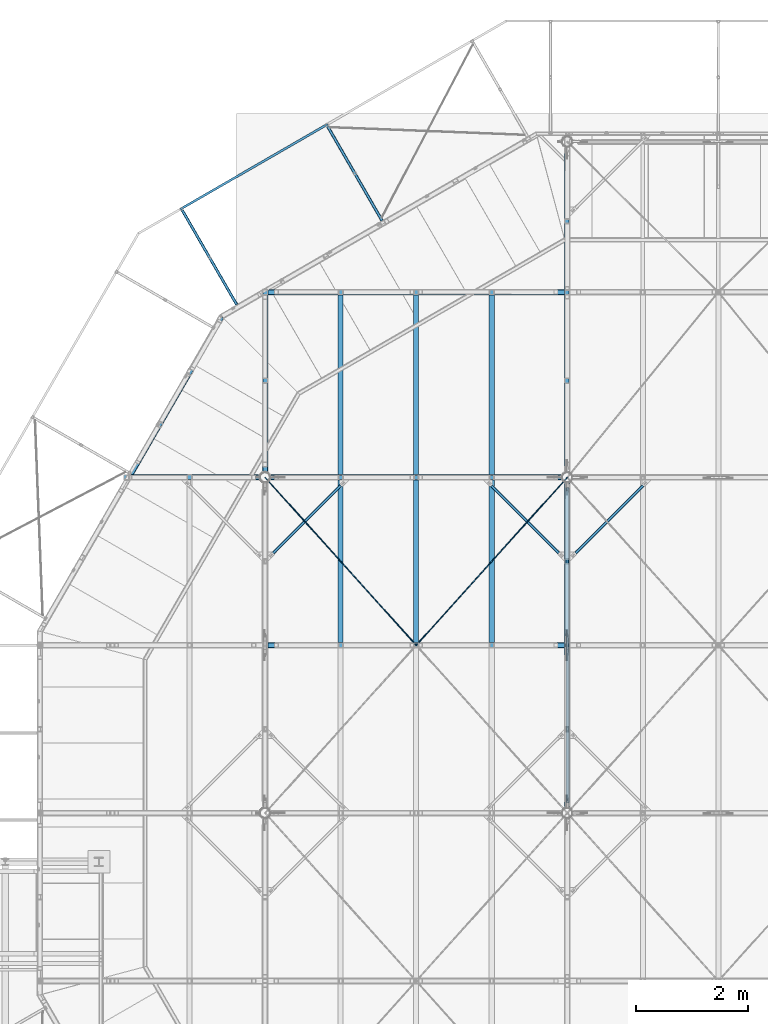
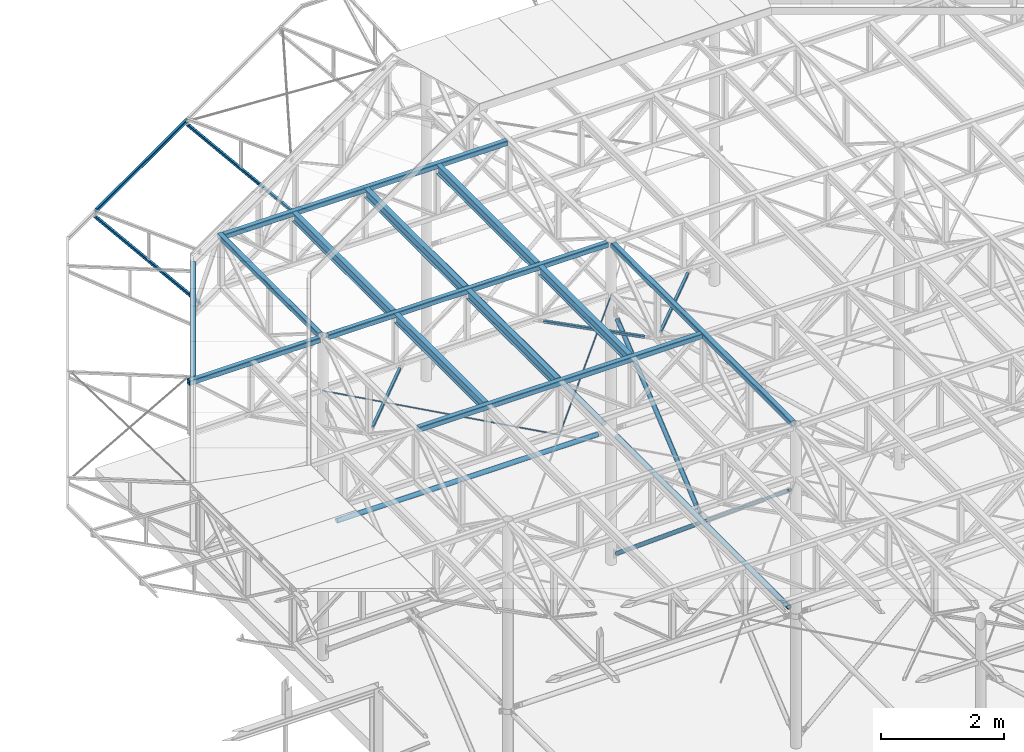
# One storey, part 16 of 132: 22 beams, 6 members, 28 elements without a shape of their own.
"""IFC2X3 building model written with IfcOpenShell, lengths in millimetres."""

from ifc_helpers import new_model, si_unit, frame, origin_with_axes, origin_2d_with_axis, place, context, subcontext, project, spatial, rectangle, hollow_rectangle, circle, hollow_circle, i_section, u_section, extrude, boolean, clip, halfspace, material, type_object, element, aggregate, save


model = new_model("IFC2X3")

# Units and contexts
model_context = context("Model", 3, precision=1e-05, world=origin_with_axes())
body_context = subcontext(model_context, "Body", "Model", "MODEL_VIEW")
ifc_project = project(units=[si_unit("LENGTHUNIT", "METRE", prefix="MILLI"), si_unit("AREAUNIT", "SQUARE_METRE"), si_unit("VOLUMEUNIT", "CUBIC_METRE"), si_unit("MASSUNIT", "GRAM", prefix="KILO"), si_unit("TIMEUNIT", "SECOND"), si_unit("PLANEANGLEUNIT", "RADIAN"), si_unit("SOLIDANGLEUNIT", "STERADIAN"), si_unit("THERMODYNAMICTEMPERATUREUNIT", "DEGREE_CELSIUS"), si_unit("LUMINOUSINTENSITYUNIT", "LUMEN")], contexts=[model_context])

# Site, building, storey
site_placement = place(None, origin_with_axes())
site = spatial("IfcSite", under=ifc_project, at=site_placement, Name="Budowa", CompositionType="ELEMENT")
building_placement = place(site_placement, origin_with_axes())
building = spatial("IfcBuilding", under=site, at=building_placement, Name="Undefined", CompositionType="ELEMENT")
storey_placement = place(building_placement, origin_with_axes())
storey = spatial("IfcBuildingStorey", under=building, at=storey_placement, Name="Undefined", CompositionType="ELEMENT", Elevation=0.0)

# Assembly, member
assembly_1_placement = place(storey_placement, origin_with_axes())
assembly_1 = element("IfcElementAssembly", 1, at=assembly_1_placement, inside=storey, Name="Steel Assembly", AssemblyPlace="NOTDEFINED", PredefinedType="RIGID_FRAME")
ifc_material_1 = material(Name="STEEL/S235JR")
member_type_1 = type_object("IfcMemberType", Name="CHS76.1*3", PredefinedType="NOTDEFINED")
member_1_placement = place(assembly_1_placement, frame((9416.99999736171, 17860.1013797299, 7739.00004577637), z_axis=(1.0, 0.0, 0.0), x_axis=(0.0, -0.76906919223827, 0.639165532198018)))
member_1 = element("IfcMember", 2, at=member_1_placement, type_object=member_type_1, material=ifc_material_1, Name="BEAM", ObjectType="CHS76.1*3", context=body_context, shape_type="CSG", body=[
    boolean("DIFFERENCE", boolean("DIFFERENCE", boolean("DIFFERENCE", boolean("DIFFERENCE", extrude(hollow_circle(Radius=38.05, WallThickness=3.0, at=origin_2d_with_axis()), frame((3481.05096829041, 0.0, 0.0), z_axis=(-1.0, 0.0, 0.0), x_axis=(0.0, -1.0, 0.0)), (0.0, 0.0, 1.0), 3395.69), extrude(rectangle(XDim=10.0, YDim=80.1, at=origin_2d_with_axis()), frame((3400.05097323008, 9.67559365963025e-14, 1.74737942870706e-06), z_axis=(1.0, 0.0, 0.0), x_axis=(0.0, 0.0, 1.0)), (0.0, 0.0, 1.0), 83.0)), extrude(rectangle(XDim=10.0, YDim=78.0, at=origin_2d_with_axis()), frame((166.363191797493, 5.83418868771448e-11, 2.32343882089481e-06), z_axis=(-1.0, 0.0, 0.0), x_axis=(0.0, 0.0, -1.0)), (0.0, 0.0, 1.0), 93.0)), halfspace(frame((3481.05096828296, 1.09139364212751e-11, 12.0000029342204), z_axis=(-1.0, 0.0, 0.0), x_axis=(0.0, -1.0, 0.0)), True)), halfspace(frame((85.3631917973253, 4.72937244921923e-11, 12.0000023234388), z_axis=(1.0, 0.0, 0.0), x_axis=(0.0, 0.0, -1.0)), True)),
])
aggregate(assembly_1, [member_1])

assembly_2_placement = place(storey_placement, origin_with_axes())
assembly_2 = element("IfcElementAssembly", 3, at=assembly_2_placement, inside=storey, Name="Steel Assembly", AssemblyPlace="NOTDEFINED", PredefinedType="RIGID_FRAME")
member_2_placement = place(assembly_2_placement, frame((9416.9999973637, 17860.1013797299, 12492.9997558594), z_axis=(1.0, 0.0, 0.0), x_axis=(0.0, -0.769069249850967, -0.639165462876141)))
member_2 = element("IfcMember", 4, at=member_2_placement, type_object=member_type_1, material=ifc_material_1, Name="BEAM", ObjectType="CHS76.1*3", context=body_context, shape_type="CSG", body=[
    boolean("DIFFERENCE", boolean("DIFFERENCE", boolean("DIFFERENCE", boolean("DIFFERENCE", extrude(hollow_circle(Radius=38.05, WallThickness=3.0, at=origin_2d_with_axis()), frame((3481.04986608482, -1.93237085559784e-13, 0.0), z_axis=(-1.0, 0.0, 0.0), x_axis=(0.0, -1.0, 0.0)), (0.0, 0.0, 1.0), 3395.69), extrude(rectangle(XDim=10.0, YDim=80.1, at=origin_2d_with_axis()), frame((3400.04985885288, -5.34461364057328e-13, 2.0142820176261e-06), z_axis=(1.0, 0.0, 0.0), x_axis=(0.0, 0.0, 1.0)), (0.0, 0.0, 1.0), 83.0)), extrude(rectangle(XDim=10.0, YDim=88.0, at=origin_2d_with_axis()), frame((166.363191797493, 5.83418868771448e-11, 2.32343882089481e-06), z_axis=(-1.0, 0.0, 0.0), x_axis=(0.0, 0.0, -1.0)), (0.0, 0.0, 1.0), 93.0)), halfspace(frame((3481.04986608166, -1.72803993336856e-11, 12.0000032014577), z_axis=(-1.0, 0.0, 0.0), x_axis=(0.0, -1.0, 0.0)), True)), halfspace(frame((85.3631917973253, 4.72937244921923e-11, 12.0000023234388), z_axis=(1.0, 0.0, 0.0), x_axis=(0.0, 0.0, -1.0)), True)),
])
aggregate(assembly_2, [member_2])

# Assembly, beam
assembly_3_placement = place(storey_placement, origin_with_axes())
assembly_3 = element("IfcElementAssembly", 5, at=assembly_3_placement, inside=storey, Name="Steel Assembly", AssemblyPlace="NOTDEFINED", PredefinedType="RIGID_FRAME")
beam_type_1 = type_object("IfcBeamType", Name="CHS88.9*3", PredefinedType="NOTDEFINED")
beam_1_placement = place(assembly_3_placement, frame((9417.00000620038, 18088.900000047, 10116.0003779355), z_axis=(-1.0, 0.0, 0.0), x_axis=(0.0, 1.0, 0.0)))
beam_1 = element("IfcBeam", 6, at=beam_1_placement, type_object=beam_type_1, material=ifc_material_1, Name="BEAM", ObjectType="CHS88.9*3", context=body_context, shape_type="CSG", body=[
    boolean("DIFFERENCE", boolean("DIFFERENCE", boolean("DIFFERENCE", boolean("DIFFERENCE", extrude(hollow_circle(Radius=44.45, WallThickness=3.0, at=origin_2d_with_axis()), frame((5703.19209466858, 0.0, 0.0), z_axis=(-1.0, 0.0, 0.0), x_axis=(0.0, -1.0, 0.0)), (0.0, 0.0, 1.0), 5584.18), extrude(rectangle(XDim=9.0, YDim=92.9, at=origin_2d_with_axis()), frame((5602.19209466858, 0.0, 3.70549059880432e-06), z_axis=(1.0, 0.0, 0.0), x_axis=(0.0, 0.0, -1.0)), (0.0, 0.0, 1.0), 103.0)), extrude(rectangle(XDim=9.0, YDim=92.9, at=origin_2d_with_axis()), frame((220.00790537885, 0.0, 3.42542261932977e-06), z_axis=(-1.0, 0.0, 0.0), x_axis=(0.0, 0.0, -1.0)), (0.0, 0.0, 1.0), 103.0)), halfspace(frame((5703.19209466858, 0.0, -11.9999962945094), z_axis=(-1.0, 0.0, 0.0), x_axis=(0.0, 1.0, 0.0)), True)), halfspace(frame((119.00790537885, 0.0, -11.9999965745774), z_axis=(1.0, 0.0, 0.0), x_axis=(0.0, -1.0, 0.0)), True)),
])
aggregate(assembly_3, [beam_1])

assembly_4_placement = place(storey_placement, origin_with_axes())
assembly_4 = element("IfcElementAssembly", 7, at=assembly_4_placement, inside=storey, Name="Steel Assembly", AssemblyPlace="NOTDEFINED", PredefinedType="RIGID_FRAME")
beam_2_placement = place(assembly_4_placement, frame((4113.90113815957, 17998.0000028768, 10116.0003779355), z_axis=(0.0, -1.0, 0.0), x_axis=(1.0, 0.0, 0.0)))
beam_2 = element("IfcBeam", 8, at=beam_2_placement, type_object=beam_type_1, material=ifc_material_1, Name="BEAM", ObjectType="CHS88.9*3", context=body_context, shape_type="CSG", body=[
    boolean("DIFFERENCE", boolean("DIFFERENCE", boolean("DIFFERENCE", boolean("DIFFERENCE", boolean("DIFFERENCE", extrude(hollow_circle(Radius=44.45, WallThickness=3.0, at=origin_2d_with_axis()), frame((5057.96216744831, 0.0, 0.0), z_axis=(-1.0, 0.0, 0.0), x_axis=(0.0, -1.0, 0.0)), (0.0, 0.0, 1.0), 4893.73), extrude(rectangle(XDim=9.0, YDim=92.9, at=origin_2d_with_axis()), frame((265.235555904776, 1.81898940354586e-12, 3.42543353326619e-06), z_axis=(-1.0, 0.0, 0.0), x_axis=(0.0, 0.0, 1.0)), (0.0, 0.0, 1.0), 103.0)), extrude(rectangle(XDim=9.0, YDim=92.9, at=origin_2d_with_axis()), frame((4956.96216744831, 1.81898940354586e-12, 3.42543353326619e-06), z_axis=(1.0, 0.0, 0.0), x_axis=(0.0, 0.0, -1.0)), (0.0, 0.0, 1.0), 103.0)), extrude(rectangle(XDim=8.0, YDim=80.1, at=origin_2d_with_axis()), frame((5006.96216666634, 0.0, 2.93223274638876e-06), z_axis=(1.0, 0.0, 0.0), x_axis=(0.0, 0.0, 1.0)), (0.0, 0.0, 1.0), 82.0)), halfspace(frame((5057.96216744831, 1.81898940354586e-12, -11.9999965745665), z_axis=(-1.0, 0.0, 0.0), x_axis=(0.0, 1.0, 0.0)), True)), halfspace(frame((164.235555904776, 1.81898940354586e-12, -11.9999965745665), z_axis=(1.0, 0.0, 0.0), x_axis=(0.0, 0.0, 1.0)), True)),
])
aggregate(assembly_4, [beam_2])

assembly_5_placement = place(storey_placement, origin_with_axes())
assembly_5 = element("IfcElementAssembly", 9, at=assembly_5_placement, inside=storey, Name="Steel Assembly", AssemblyPlace="NOTDEFINED", PredefinedType="RIGID_FRAME")
beam_3_placement = place(assembly_5_placement, frame((9417.00000620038, 12088.900000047, 10116.0003779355), z_axis=(-1.0, 0.0, 0.0), x_axis=(0.0, 1.0, 0.0)))
beam_3 = element("IfcBeam", 10, at=beam_3_placement, type_object=beam_type_1, material=ifc_material_1, Name="BEAM", ObjectType="CHS88.9*3", context=body_context, shape_type="CSG", body=[
    boolean("DIFFERENCE", boolean("DIFFERENCE", boolean("DIFFERENCE", boolean("DIFFERENCE", extrude(hollow_circle(Radius=44.45, WallThickness=3.0, at=origin_2d_with_axis()), frame((5703.19209466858, 0.0, 0.0), z_axis=(-1.0, 0.0, 0.0), x_axis=(0.0, -1.0, 0.0)), (0.0, 0.0, 1.0), 5584.18), extrude(rectangle(XDim=9.0, YDim=92.9, at=origin_2d_with_axis()), frame((5602.19209466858, 0.0, 3.70549059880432e-06), z_axis=(1.0, 0.0, 0.0), x_axis=(0.0, 0.0, -1.0)), (0.0, 0.0, 1.0), 103.0)), extrude(rectangle(XDim=9.0, YDim=92.9, at=origin_2d_with_axis()), frame((220.00790537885, 0.0, 3.42542261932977e-06), z_axis=(-1.0, 0.0, 0.0), x_axis=(0.0, 0.0, -1.0)), (0.0, 0.0, 1.0), 103.0)), halfspace(frame((5703.19209466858, 0.0, -11.9999962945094), z_axis=(-1.0, 0.0, 0.0), x_axis=(0.0, 1.0, 0.0)), True)), halfspace(frame((119.00790537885, 0.0, -11.9999965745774), z_axis=(1.0, 0.0, 0.0), x_axis=(0.0, -1.0, 0.0)), True)),
])
aggregate(assembly_5, [beam_3])

# Assembly, member
assembly_6_placement = place(storey_placement, origin_with_axes())
assembly_6 = element("IfcElementAssembly", 11, at=assembly_6_placement, inside=storey, Name="Steel Assembly", AssemblyPlace="NOTDEFINED", PredefinedType="RIGID_FRAME")
ifc_material_2 = material(Name="STEEL/S235")
member_type_2 = type_object("IfcMemberType", Name="CHS60.3*6.3", PredefinedType="NOTDEFINED")
member_3_placement = place(assembly_6_placement, frame((9433.00000235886, 17860.1013797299, 7739.00004577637), z_axis=(-1.0, 0.0, 0.0), x_axis=(0.0, -0.76906919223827, 0.639165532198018)))
member_3 = element("IfcMember", 12, at=member_3_placement, type_object=member_type_2, material=ifc_material_2, Name="BEAM", ObjectType="CHS60.3*6.3", context=body_context, shape_type="CSG", body=[
    boolean("DIFFERENCE", boolean("DIFFERENCE", boolean("DIFFERENCE", boolean("DIFFERENCE", extrude(hollow_circle(Radius=30.15, WallThickness=6.3, at=origin_2d_with_axis()), frame((7362.46270940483, -4.08698780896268e-13, 0.0), z_axis=(-1.0, 0.0, 0.0), x_axis=(0.0, -1.0, 0.0)), (0.0, 0.0, 1.0), 7287.1), extrude(rectangle(XDim=8.0, YDim=64.3, at=origin_2d_with_axis()), frame((7312.46270938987, -3.70725672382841e-12, 2.41760744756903e-06), z_axis=(1.0, 0.0, 0.0), x_axis=(0.0, 0.0, 1.0)), (0.0, 0.0, 1.0), 52.0)), extrude(rectangle(XDim=8.0, YDim=64.3, at=origin_2d_with_axis()), frame((125.363191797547, -3.76239039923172e-11, 2.32343927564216e-06), z_axis=(-1.0, 0.0, 0.0), x_axis=(0.0, 0.0, 1.0)), (0.0, 0.0, 1.0), 52.0)), halfspace(frame((7362.46270938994, -7.27595761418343e-12, 12.0000024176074), z_axis=(-1.0, 0.0, 0.0), x_axis=(0.0, -1.0, 0.0)), True)), halfspace(frame((75.3631917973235, -5.0931703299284e-11, 12.0000023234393), z_axis=(1.0, 0.0, 0.0), x_axis=(0.0, 1.0, 0.0)), True)),
])
aggregate(assembly_6, [member_3])

assembly_7_placement = place(storey_placement, origin_with_axes())
assembly_7 = element("IfcElementAssembly", 13, at=assembly_7_placement, inside=storey, Name="Steel Assembly", AssemblyPlace="NOTDEFINED", PredefinedType="RIGID_FRAME")
member_4_placement = place(assembly_7_placement, frame((9433.00000235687, 17860.1013797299, 12492.9997558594), z_axis=(-1.0, 0.0, 0.0), x_axis=(0.0, -0.769069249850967, -0.639165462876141)))
member_4 = element("IfcMember", 14, at=member_4_placement, type_object=member_type_2, material=ifc_material_2, Name="BEAM", ObjectType="CHS60.3*6.3", context=body_context, shape_type="CSG", body=[
    boolean("DIFFERENCE", boolean("DIFFERENCE", boolean("DIFFERENCE", boolean("DIFFERENCE", extrude(hollow_circle(Radius=30.15, WallThickness=6.3, at=origin_2d_with_axis()), frame((3572.46182118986, 1.98311468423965e-13, 0.0), z_axis=(-1.0, 0.0, 0.0), x_axis=(0.0, -1.0, 0.0)), (0.0, 0.0, 1.0), 3497.1), extrude(rectangle(XDim=8.0, YDim=64.3, at=origin_2d_with_axis()), frame((3522.46182118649, 2.42827979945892e-12, 2.51177698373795e-06), z_axis=(1.0, 0.0, 0.0), x_axis=(0.0, 0.0, 1.0)), (0.0, 0.0, 1.0), 52.0)), extrude(rectangle(XDim=8.0, YDim=64.3, at=origin_2d_with_axis()), frame((125.363191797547, -3.76239039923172e-11, 2.32343927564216e-06), z_axis=(-1.0, 0.0, 0.0), x_axis=(0.0, 0.0, 1.0)), (0.0, 0.0, 1.0), 52.0)), halfspace(frame((3572.46182118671, 8.18545231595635e-12, 12.000002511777), z_axis=(-1.0, 0.0, 0.0), x_axis=(0.0, -1.0, 0.0)), True)), halfspace(frame((75.3631917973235, -5.0931703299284e-11, 12.0000023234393), z_axis=(1.0, 0.0, 0.0), x_axis=(0.0, 1.0, 0.0)), True)),
])
aggregate(assembly_7, [member_4])

# Assembly, beam
assembly_8_placement = place(storey_placement, origin_with_axes())
assembly_8 = element("IfcElementAssembly", 15, at=assembly_8_placement, inside=storey, Name="Steel Assembly", AssemblyPlace="NOTDEFINED", PredefinedType="RIGID_FRAME")
beam_type_2 = type_object("IfcBeamType", Name="IPE180", PredefinedType="NOTDEFINED")
beam_4_placement = place(assembly_8_placement, frame((5374.99999993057, 18050.000000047, 13790.0), z_axis=(0.0, 0.0, 1.0), x_axis=(0.0, 1.0, 0.0)))
beam_4 = element("IfcBeam", 16, at=beam_4_placement, type_object=beam_type_2, material=ifc_material_2, Name="BEAM", ObjectType="IPE180", context=body_context, shape_type="SweptSolid", body=[
    extrude(i_section(OverallWidth=91.0, OverallDepth=180.0, WebThickness=5.300000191, FlangeThickness=8.0, FilletRadius=9.0, at=origin_2d_with_axis()), frame((3209.99999999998, 0.0, 0.0), z_axis=(-1.0, 0.0, 0.0), x_axis=(0.0, -1.0, 0.0)), (0.0, 0.0, 1.0), 3210.0),
])
aggregate(assembly_8, [beam_4])

assembly_9_placement = place(storey_placement, origin_with_axes())
assembly_9 = element("IfcElementAssembly", 17, at=assembly_9_placement, inside=storey, Name="Steel Assembly", AssemblyPlace="NOTDEFINED", PredefinedType="RIGID_FRAME")
beam_5_placement = place(assembly_9_placement, frame((5374.99999993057, 15050.0000000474, 13790.0), z_axis=(0.0, 0.0, 1.0), x_axis=(0.0, 1.0, 0.0)))
beam_5 = element("IfcBeam", 18, at=beam_5_placement, type_object=beam_type_2, material=ifc_material_2, Name="BEAM", ObjectType="IPE180", context=body_context, shape_type="SweptSolid", body=[
    extrude(i_section(OverallWidth=91.0, OverallDepth=180.0, WebThickness=5.300000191, FlangeThickness=8.0, FilletRadius=9.0, at=origin_2d_with_axis()), frame((2900.00000000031, 0.0, 0.0), z_axis=(-1.0, 0.0, 0.0), x_axis=(0.0, -1.0, 0.0)), (0.0, 0.0, 1.0), 2900.0),
])
aggregate(assembly_9, [beam_5])

assembly_10_placement = place(storey_placement, origin_with_axes())
assembly_10 = element("IfcElementAssembly", 19, at=assembly_10_placement, inside=storey, Name="Steel Assembly", AssemblyPlace="NOTDEFINED", PredefinedType="RIGID_FRAME")
beam_6_placement = place(assembly_10_placement, frame((8074.99999993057, 18050.000000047, 13790.0), z_axis=(0.0, 0.0, 1.0), x_axis=(0.0, 1.0, 0.0)))
beam_6 = element("IfcBeam", 20, at=beam_6_placement, type_object=beam_type_2, material=ifc_material_2, Name="BEAM", ObjectType="IPE180", context=body_context, shape_type="SweptSolid", body=[
    extrude(i_section(OverallWidth=91.0, OverallDepth=180.0, WebThickness=5.300000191, FlangeThickness=8.0, FilletRadius=9.0, at=origin_2d_with_axis()), frame((3209.99999999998, 0.0, 0.0), z_axis=(-1.0, 0.0, 0.0), x_axis=(0.0, -1.0, 0.0)), (0.0, 0.0, 1.0), 3210.0),
])
aggregate(assembly_10, [beam_6])

assembly_11_placement = place(storey_placement, origin_with_axes())
assembly_11 = element("IfcElementAssembly", 21, at=assembly_11_placement, inside=storey, Name="Steel Assembly", AssemblyPlace="NOTDEFINED", PredefinedType="RIGID_FRAME")
beam_7_placement = place(assembly_11_placement, frame((8074.99999993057, 15050.0000000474, 13790.0), z_axis=(0.0, 0.0, 1.0), x_axis=(0.0, 1.0, 0.0)))
beam_7 = element("IfcBeam", 22, at=beam_7_placement, type_object=beam_type_2, material=ifc_material_2, Name="BEAM", ObjectType="IPE180", context=body_context, shape_type="SweptSolid", body=[
    extrude(i_section(OverallWidth=91.0, OverallDepth=180.0, WebThickness=5.300000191, FlangeThickness=8.0, FilletRadius=9.0, at=origin_2d_with_axis()), frame((2900.00000000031, 0.0, 0.0), z_axis=(-1.0, 0.0, 0.0), x_axis=(0.0, -1.0, 0.0)), (0.0, 0.0, 1.0), 2900.0),
])
aggregate(assembly_11, [beam_7])

assembly_12_placement = place(storey_placement, origin_with_axes())
assembly_12 = element("IfcElementAssembly", 23, at=assembly_12_placement, inside=storey, Name="Steel Assembly", AssemblyPlace="NOTDEFINED", PredefinedType="RIGID_FRAME")
beam_8_placement = place(assembly_12_placement, frame((6724.99999993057, 18050.000000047, 13790.0), z_axis=(0.0, 0.0, 1.0), x_axis=(0.0, 1.0, 0.0)))
beam_8 = element("IfcBeam", 24, at=beam_8_placement, type_object=beam_type_2, material=ifc_material_2, Name="BEAM", ObjectType="IPE180", context=body_context, shape_type="SweptSolid", body=[
    extrude(i_section(OverallWidth=91.0, OverallDepth=180.0, WebThickness=5.300000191, FlangeThickness=8.0, FilletRadius=9.0, at=origin_2d_with_axis()), frame((3209.99999999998, 0.0, 0.0), z_axis=(-1.0, 0.0, 0.0), x_axis=(0.0, -1.0, 0.0)), (0.0, 0.0, 1.0), 3210.0),
])
aggregate(assembly_12, [beam_8])

assembly_13_placement = place(storey_placement, origin_with_axes())
assembly_13 = element("IfcElementAssembly", 25, at=assembly_13_placement, inside=storey, Name="Steel Assembly", AssemblyPlace="NOTDEFINED", PredefinedType="RIGID_FRAME")
beam_9_placement = place(assembly_13_placement, frame((6724.99999993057, 15050.0000000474, 13790.0), z_axis=(0.0, 0.0, 1.0), x_axis=(0.0, 1.0, 0.0)))
beam_9 = element("IfcBeam", 26, at=beam_9_placement, type_object=beam_type_2, material=ifc_material_2, Name="BEAM", ObjectType="IPE180", context=body_context, shape_type="SweptSolid", body=[
    extrude(i_section(OverallWidth=91.0, OverallDepth=180.0, WebThickness=5.300000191, FlangeThickness=8.0, FilletRadius=9.0, at=origin_2d_with_axis()), frame((2900.00000000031, 0.0, 0.0), z_axis=(-1.0, 0.0, 0.0), x_axis=(0.0, -1.0, 0.0)), (0.0, 0.0, 1.0), 2900.0),
])
aggregate(assembly_13, [beam_9])

assembly_14_placement = place(storey_placement, origin_with_axes())
assembly_14 = element("IfcElementAssembly", 27, at=assembly_14_placement, inside=storey, Name="Steel Assembly", AssemblyPlace="NOTDEFINED", PredefinedType="RIGID_FRAME")
beam_type_3 = type_object("IfcBeamType", Name="C70*40*4", PredefinedType="NOTDEFINED")
beam_10_placement = place(assembly_14_placement, frame((5103.55956114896, 24290.9374062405, 13945.0050192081), z_axis=(0.0, 0.0, -1.0), x_axis=(-0.866042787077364, -0.499969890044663, 0.0)))
beam_10 = element("IfcBeam", 28, at=beam_10_placement, type_object=beam_type_3, material=ifc_material_2, Name="BEAM", ObjectType="C70*40*4", context=body_context, shape_type="SweptSolid", body=[
    extrude(u_section(Depth=70.0, FlangeWidth=40.0, WebThickness=4.0, FlangeThickness=4.0, FilletRadius=6.0, at=origin_2d_with_axis()), frame((2949.99999995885, 1.63757896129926e-13, 0.0), z_axis=(-1.0, 0.0, 0.0), x_axis=(0.0, -1.0, 0.0)), (0.0, 0.0, 1.0), 2950.0),
])
aggregate(assembly_14, [beam_10])

# Assembly, member
assembly_15_placement = place(storey_placement, origin_with_axes())
assembly_15 = element("IfcElementAssembly", 29, at=assembly_15_placement, inside=storey, Name="Steel Assembly", AssemblyPlace="NOTDEFINED", PredefinedType="RIGID_FRAME")
member_type_3 = type_object("IfcMemberType", Name="SHS50*4", PredefinedType="NOTDEFINED")
member_5_placement = place(assembly_15_placement, frame((3522.88268420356, 21078.6115763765, 12802.1351883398), z_axis=(-0.866042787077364, -0.499969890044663, 0.0), x_axis=(-0.442677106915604, 0.766800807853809, 0.464815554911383)))
member_5 = element("IfcMember", 30, at=member_5_placement, type_object=member_type_3, material=ifc_material_2, Name="BEAM", ObjectType="SHS50*4", context=body_context, shape_type="Clipping", body=[
    clip(clip(extrude(hollow_rectangle(XDim=50.0, YDim=50.0, WallThickness=4.0, InnerFilletRadius=4.0, OuterFilletRadius=8.0, at=origin_2d_with_axis()), frame((2325.27637080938, 1.2907876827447e-13, 5.21059351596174e-14), z_axis=(-1.0, 0.0, 0.0), x_axis=(0.0, -1.0, 0.0)), (0.0, 0.0, 1.0), 2325.28), halfspace(frame((26.2486785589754, -24.9999999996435, -25.0000000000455), z_axis=(-0.885407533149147, -0.464815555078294, 0.0), x_axis=(-0.464815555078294, 0.885407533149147, 0.0)), False)), halfspace(frame((2258.9602037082, 25.0000000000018, -1.41881173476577e-10), z_axis=(-0.855808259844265, 0.517293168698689, 0.0), x_axis=(0.0, 0.0, 1.0)), True)),
])
aggregate(assembly_15, [member_5])

assembly_16_placement = place(storey_placement, origin_with_axes())
assembly_16 = element("IfcElementAssembly", 31, at=assembly_16_placement, inside=storey, Name="Steel Assembly", AssemblyPlace="NOTDEFINED", PredefinedType="RIGID_FRAME")
member_6_placement = place(assembly_16_placement, frame((6121.01104543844, 22578.5212465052, 12802.1351883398), z_axis=(-0.866042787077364, -0.499969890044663, 0.0), x_axis=(-0.442677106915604, 0.766800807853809, 0.464815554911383)))
member_6 = element("IfcMember", 32, at=member_6_placement, type_object=member_type_3, material=ifc_material_2, Name="BEAM", ObjectType="SHS50*4", context=body_context, shape_type="Clipping", body=[
    clip(clip(extrude(hollow_rectangle(XDim=50.0, YDim=50.0, WallThickness=4.0, InnerFilletRadius=4.0, OuterFilletRadius=8.0, at=origin_2d_with_axis()), frame((2325.27637080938, 1.2907876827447e-13, 5.21059351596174e-14), z_axis=(-1.0, 0.0, 0.0), x_axis=(0.0, -1.0, 0.0)), (0.0, 0.0, 1.0), 2325.28), halfspace(frame((26.2486785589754, -24.9999999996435, -25.0000000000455), z_axis=(-0.885407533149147, -0.464815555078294, 0.0), x_axis=(-0.464815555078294, 0.885407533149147, 0.0)), False)), halfspace(frame((2258.9602037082, 25.0000000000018, -1.41881173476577e-10), z_axis=(-0.855808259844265, 0.517293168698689, 0.0), x_axis=(0.0, 0.0, 1.0)), True)),
])
aggregate(assembly_16, [member_6])

# Assembly, beam
assembly_17_placement = place(storey_placement, origin_with_axes())
assembly_17 = element("IfcElementAssembly", 33, at=assembly_17_placement, inside=storey, Name="Steel Assembly", AssemblyPlace="NOTDEFINED", PredefinedType="RIGID_FRAME")
beam_type_4 = type_object("IfcBeamType", Name="D16", PredefinedType="NOTDEFINED")
beam_11_placement = place(assembly_17_placement, frame((9424.99999994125, 18000.0000000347, 12780.0), z_axis=(0.0, 0.0, 1.0), x_axis=(-0.668964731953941, -0.743294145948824, 0.0)))
beam_11 = element("IfcBeam", 34, at=beam_11_placement, type_object=beam_type_4, material=ifc_material_2, Name="BEAM", ObjectType="D16", context=body_context, shape_type="SweptSolid", body=[
    extrude(circle(Radius=8.0, at=origin_2d_with_axis()), frame((4036.08721501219, 2.30699503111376e-13, 1.81898940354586e-12), z_axis=(-1.0, 0.0, 0.0), x_axis=(0.0, -1.0, 0.0)), (0.0, 0.0, 1.0), 4036.09),
])
aggregate(assembly_17, [beam_11])

assembly_18_placement = place(storey_placement, origin_with_axes())
assembly_18 = element("IfcElementAssembly", 35, at=assembly_18_placement, inside=storey, Name="Steel Assembly", AssemblyPlace="NOTDEFINED", PredefinedType="RIGID_FRAME")
beam_12_placement = place(assembly_18_placement, frame((6724.99999859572, 15000.0000000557, 12780.0), z_axis=(0.0, 0.0, 1.0), x_axis=(-0.668964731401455, 0.743294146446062, 0.0)))
beam_12 = element("IfcBeam", 36, at=beam_12_placement, type_object=beam_type_4, material=ifc_material_2, Name="BEAM", ObjectType="D16", context=body_context, shape_type="SweptSolid", body=[
    extrude(circle(Radius=8.0, at=origin_2d_with_axis()), frame((4036.08721501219, 2.30699503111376e-13, 1.81898940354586e-12), z_axis=(-1.0, 0.0, 0.0), x_axis=(0.0, -1.0, 0.0)), (0.0, 0.0, 1.0), 4036.09),
])
aggregate(assembly_18, [beam_12])

assembly_19_placement = place(storey_placement, origin_with_axes())
assembly_19 = element("IfcElementAssembly", 37, at=assembly_19_placement, inside=storey, Name="Steel Assembly", AssemblyPlace="NOTDEFINED", PredefinedType="RIGID_FRAME")
beam_type_5 = type_object("IfcBeamType", Name="SHS50*5", PredefinedType="NOTDEFINED")
beam_13_placement = place(assembly_19_placement, frame((3774.99999992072, 16250.0000000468, 12830.0), z_axis=(0.0, 0.0, 1.0), x_axis=(0.707106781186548, 0.707106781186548, 0.0)))
beam_13 = element("IfcBeam", 38, at=beam_13_placement, type_object=beam_type_5, material=ifc_material_2, Name="BEAM", ObjectType="SHS50*5", context=body_context, shape_type="Clipping", body=[
    clip(clip(extrude(hollow_rectangle(XDim=50.0, YDim=50.0, WallThickness=5.0, InnerFilletRadius=5.0, OuterFilletRadius=10.0, at=origin_2d_with_axis()), frame((2264.36406349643, -1.81898940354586e-12, 1.81898940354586e-12), z_axis=(-1.0, 0.0, 0.0), x_axis=(0.0, -1.0, 0.0)), (0.0, 0.0, 1.0), 1700.3), halfspace(frame((2264.36406350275, 1.44245859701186e-09, -8.99999999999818), z_axis=(-1.0, 0.0, 0.0), x_axis=(0.0, 1.0, 0.0)), True)), halfspace(frame((564.063061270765, -1.43882061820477e-09, -8.99999999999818), z_axis=(1.0, 0.0, 0.0), x_axis=(0.0, -1.0, 0.0)), True)),
])
aggregate(assembly_19, [beam_13])

assembly_20_placement = place(storey_placement, origin_with_axes())
assembly_20 = element("IfcElementAssembly", 39, at=assembly_20_placement, inside=storey, Name="Steel Assembly", AssemblyPlace="NOTDEFINED", PredefinedType="RIGID_FRAME")
beam_14_placement = place(assembly_20_placement, frame((9174.99999994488, 16250.0000000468, 12830.0), z_axis=(0.0, 0.0, 1.0), x_axis=(0.707106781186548, 0.707106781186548, 0.0)))
beam_14 = element("IfcBeam", 40, at=beam_14_placement, type_object=beam_type_5, material=ifc_material_2, Name="BEAM", ObjectType="SHS50*5", context=body_context, shape_type="Clipping", body=[
    clip(clip(extrude(hollow_rectangle(XDim=50.0, YDim=50.0, WallThickness=5.0, InnerFilletRadius=5.0, OuterFilletRadius=10.0, at=origin_2d_with_axis()), frame((2264.36406349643, -1.81898940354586e-12, 1.81898940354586e-12), z_axis=(-1.0, 0.0, 0.0), x_axis=(0.0, -1.0, 0.0)), (0.0, 0.0, 1.0), 1700.3), halfspace(frame((2264.36406350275, 1.44245859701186e-09, -8.99999999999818), z_axis=(-1.0, 0.0, 0.0), x_axis=(0.0, 1.0, 0.0)), True)), halfspace(frame((564.063061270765, -1.43882061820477e-09, -8.99999999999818), z_axis=(1.0, 0.0, 0.0), x_axis=(0.0, -1.0, 0.0)), True)),
])
aggregate(assembly_20, [beam_14])

assembly_21_placement = place(storey_placement, origin_with_axes())
assembly_21 = element("IfcElementAssembly", 41, at=assembly_21_placement, inside=storey, Name="Steel Assembly", AssemblyPlace="NOTDEFINED", PredefinedType="RIGID_FRAME")
beam_15_placement = place(assembly_21_placement, frame((9674.99999994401, 16250.0000000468, 12830.0), z_axis=(0.0, 0.0, 1.0), x_axis=(-0.707106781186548, 0.707106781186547, 0.0)))
beam_15 = element("IfcBeam", 42, at=beam_15_placement, type_object=beam_type_5, material=ifc_material_2, Name="BEAM", ObjectType="SHS50*5", context=body_context, shape_type="Clipping", body=[
    clip(clip(extrude(hollow_rectangle(XDim=50.0, YDim=50.0, WallThickness=5.0, InnerFilletRadius=5.0, OuterFilletRadius=10.0, at=origin_2d_with_axis()), frame((2264.36406349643, -1.81898940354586e-12, 1.81898940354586e-12), z_axis=(-1.0, 0.0, 0.0), x_axis=(0.0, -1.0, 0.0)), (0.0, 0.0, 1.0), 1700.3), halfspace(frame((2264.36406350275, 1.44245859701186e-09, -8.99999999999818), z_axis=(-1.0, 0.0, 0.0), x_axis=(0.0, 1.0, 0.0)), True)), halfspace(frame((564.063061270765, -1.43882061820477e-09, -8.99999999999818), z_axis=(1.0, 0.0, 0.0), x_axis=(0.0, -1.0, 0.0)), True)),
])
aggregate(assembly_21, [beam_15])

assembly_22_placement = place(storey_placement, origin_with_axes())
assembly_22 = element("IfcElementAssembly", 43, at=assembly_22_placement, inside=storey, Name="Steel Assembly", AssemblyPlace="NOTDEFINED", PredefinedType="RIGID_FRAME")
beam_type_6 = type_object("IfcBeamType", Name="SHS100*8", PredefinedType="NOTDEFINED")
beam_16_placement = place(assembly_22_placement, frame((3936.09999980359, 18000.000000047, 13830.0), z_axis=(0.0, -1.0, 0.0), x_axis=(-1.0, 0.0, 0.0)))
beam_16 = element("IfcBeam", 44, at=beam_16_placement, type_object=beam_type_6, material=ifc_material_2, Name="BEAM", ObjectType="SHS100*8", context=body_context, shape_type="CSG", body=[
    boolean("DIFFERENCE", boolean("DIFFERENCE", extrude(hollow_rectangle(XDim=100.0, YDim=100.0, WallThickness=8.0, InnerFilletRadius=8.0, OuterFilletRadius=16.0, at=origin_2d_with_axis()), frame((2434.0, 0.0, 0.0), z_axis=(-1.0, 0.0, 0.0), x_axis=(0.0, -1.0, 0.0)), (0.0, 0.0, 1.0), 2522.9), extrude(circle(Radius=89.9, at=origin_2d_with_axis()), frame((-88.9000001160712, -1950.0, -7.27595761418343e-12), z_axis=(0.0, 1.0, 0.0), x_axis=(0.0, 0.0, 1.0)), (0.0, 0.0, 1.0), 2100.0)), halfspace(frame((-88.9000001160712, 6339.0, -7.27595761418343e-12), z_axis=(-1.0, 0.0, 0.0), x_axis=(0.0, 0.0, 1.0)), False)),
])
aggregate(assembly_22, [beam_16])

assembly_23_placement = place(storey_placement, origin_with_axes())
assembly_23 = element("IfcElementAssembly", 45, at=assembly_23_placement, inside=storey, Name="Steel Assembly", AssemblyPlace="NOTDEFINED", PredefinedType="RIGID_FRAME")
beam_17_placement = place(assembly_23_placement, frame((4074.99999993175, 21310.000000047, 13830.0), z_axis=(0.0, -1.0, 0.0), x_axis=(1.0, 0.0, 0.0)))
beam_17 = element("IfcBeam", 46, at=beam_17_placement, type_object=beam_type_6, material=ifc_material_2, Name="BEAM", ObjectType="SHS100*8", context=body_context, shape_type="SweptSolid", body=[
    extrude(hollow_rectangle(XDim=100.0, YDim=100.0, WallThickness=8.0, InnerFilletRadius=8.0, OuterFilletRadius=16.0, at=origin_2d_with_axis()), frame((5300.0, 0.0, 0.0), z_axis=(-1.0, 0.0, 0.0), x_axis=(0.0, -1.0, 0.0)), (0.0, 0.0, 1.0), 5300.0),
])
aggregate(assembly_23, [beam_17])

assembly_24_placement = place(storey_placement, origin_with_axes())
assembly_24 = element("IfcElementAssembly", 47, at=assembly_24_placement, inside=storey, Name="Steel Assembly", AssemblyPlace="NOTDEFINED", PredefinedType="RIGID_FRAME")
beam_18_placement = place(assembly_24_placement, frame((4024.99999991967, 18088.9000000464, 13830.0), z_axis=(-1.0, 0.0, 0.0), x_axis=(0.0, 1.0, 0.0)))
beam_18 = element("IfcBeam", 48, at=beam_18_placement, type_object=beam_type_6, material=ifc_material_2, Name="BEAM", ObjectType="SHS100*8", context=body_context, shape_type="CSG", body=[
    boolean("DIFFERENCE", boolean("DIFFERENCE", extrude(hollow_rectangle(XDim=100.0, YDim=100.0, WallThickness=8.0, InnerFilletRadius=8.0, OuterFilletRadius=16.0, at=origin_2d_with_axis()), frame((3271.09999999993, 0.0, 0.0), z_axis=(-1.0, 0.0, 0.0), x_axis=(0.0, -1.0, 0.0)), (0.0, 0.0, 1.0), 3360.0), extrude(circle(Radius=89.9, at=origin_2d_with_axis()), frame((-88.9000001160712, -1950.0, -7.27595761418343e-12), z_axis=(0.0, 1.0, 0.0), x_axis=(-1.0, 0.0, 0.0)), (0.0, 0.0, 1.0), 2100.0)), halfspace(frame((-88.9000001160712, 6339.0, -7.27595761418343e-12), z_axis=(-1.0, 0.0, 0.0), x_axis=(0.0, 0.0, 1.0)), False)),
])
aggregate(assembly_24, [beam_18])

assembly_25_placement = place(storey_placement, origin_with_axes())
assembly_25 = element("IfcElementAssembly", 49, at=assembly_25_placement, inside=storey, Name="Steel Assembly", AssemblyPlace="NOTDEFINED", PredefinedType="RIGID_FRAME")
beam_19_placement = place(assembly_25_placement, frame((4074.99999993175, 15000.0000000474, 13830.0), z_axis=(0.0, -1.0, 0.0), x_axis=(1.0, 0.0, 0.0)))
beam_19 = element("IfcBeam", 50, at=beam_19_placement, type_object=beam_type_6, material=ifc_material_2, Name="BEAM", ObjectType="SHS100*8", context=body_context, shape_type="SweptSolid", body=[
    extrude(hollow_rectangle(XDim=100.0, YDim=100.0, WallThickness=8.0, InnerFilletRadius=8.0, OuterFilletRadius=16.0, at=origin_2d_with_axis()), frame((5300.0, 0.0, 0.0), z_axis=(-1.0, 0.0, 0.0), x_axis=(0.0, -1.0, 0.0)), (0.0, 0.0, 1.0), 5300.0),
])
aggregate(assembly_25, [beam_19])

assembly_26_placement = place(storey_placement, origin_with_axes())
assembly_26 = element("IfcElementAssembly", 51, at=assembly_26_placement, inside=storey, Name="Steel Assembly", AssemblyPlace="NOTDEFINED", PredefinedType="RIGID_FRAME")
beam_20_placement = place(assembly_26_placement, frame((9424.99999994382, 12088.900000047, 13830.0), z_axis=(1.0, 0.0, 0.0), x_axis=(0.0, 1.0, 0.0)))
beam_20 = element("IfcBeam", 52, at=beam_20_placement, type_object=beam_type_6, material=ifc_material_2, Name="BEAM", ObjectType="SHS100*8", context=body_context, shape_type="CSG", body=[
    boolean("DIFFERENCE", boolean("DIFFERENCE", boolean("DIFFERENCE", boolean("DIFFERENCE", extrude(hollow_rectangle(XDim=100.0, YDim=100.0, WallThickness=8.0, InnerFilletRadius=8.0, OuterFilletRadius=16.0, at=origin_2d_with_axis()), frame((5911.09999999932, 0.0, 0.0), z_axis=(-1.0, 0.0, 0.0), x_axis=(0.0, -1.0, 0.0)), (0.0, 0.0, 1.0), 6000.0), extrude(circle(Radius=89.9, at=origin_2d_with_axis()), frame((5911.09999999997, 1950.0, 0.0), z_axis=(0.0, -1.0, 0.0), x_axis=(-1.0, 0.0, 0.0)), (0.0, 0.0, 1.0), 2100.0)), extrude(circle(Radius=89.9, at=origin_2d_with_axis()), frame((-88.9000000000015, 1950.0, -5.45696821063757e-12), z_axis=(0.0, -1.0, 0.0), x_axis=(-1.0, 0.0, 0.0)), (0.0, 0.0, 1.0), 2100.0)), halfspace(frame((5911.09999999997, -6339.0, -6.3664629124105e-12), z_axis=(-1.0, 0.0, 0.0), x_axis=(0.0, 0.0, -1.0)), True)), halfspace(frame((-88.9000000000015, -6339.0, -5.45696821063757e-12), z_axis=(-1.0, 0.0, 0.0), x_axis=(0.0, 0.0, -1.0)), False)),
])
aggregate(assembly_26, [beam_20])

assembly_27_placement = place(storey_placement, origin_with_axes())
assembly_27 = element("IfcElementAssembly", 53, at=assembly_27_placement, inside=storey, Name="Steel Assembly", AssemblyPlace="NOTDEFINED", PredefinedType="RIGID_FRAME")
beam_21_placement = place(assembly_27_placement, frame((4113.99999993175, 18000.000000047, 13830.0), z_axis=(0.0, -1.0, 0.0), x_axis=(1.0, 0.0, 0.0)))
beam_21 = element("IfcBeam", 54, at=beam_21_placement, type_object=beam_type_6, material=ifc_material_2, Name="BEAM", ObjectType="SHS100*8", context=body_context, shape_type="CSG", body=[
    boolean("DIFFERENCE", boolean("DIFFERENCE", boolean("DIFFERENCE", boolean("DIFFERENCE", extrude(hollow_rectangle(XDim=100.0, YDim=100.0, WallThickness=8.0, InnerFilletRadius=8.0, OuterFilletRadius=16.0, at=origin_2d_with_axis()), frame((5311.00000001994, 0.0, 0.0), z_axis=(-1.0, 0.0, 0.0), x_axis=(0.0, -1.0, 0.0)), (0.0, 0.0, 1.0), 5400.0), extrude(circle(Radius=89.9, at=origin_2d_with_axis()), frame((-89.0000000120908, 1950.0, 1.09139364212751e-11), z_axis=(0.0, -1.0, 0.0), x_axis=(0.0, 0.0, 1.0)), (0.0, 0.0, 1.0), 2100.0)), extrude(circle(Radius=89.9, at=origin_2d_with_axis()), frame((5311.00000001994, 1950.0, 7.27595761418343e-12), z_axis=(0.0, -1.0, 0.0), x_axis=(0.0, 0.0, 1.0)), (0.0, 0.0, 1.0), 2100.0)), halfspace(frame((5311.00000001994, -6339.0, 7.27595761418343e-12), z_axis=(-1.0, 0.0, 0.0), x_axis=(0.0, 0.0, -1.0)), True)), halfspace(frame((-89.0000000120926, -6339.0, 1.09139364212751e-11), z_axis=(-1.0, 0.0, 0.0), x_axis=(0.0, 0.0, -1.0)), False)),
])
aggregate(assembly_27, [beam_21])

assembly_28_placement = place(storey_placement, origin_with_axes())
assembly_28 = element("IfcElementAssembly", 55, at=assembly_28_placement, inside=storey, Name="Steel Assembly", AssemblyPlace="NOTDEFINED", PredefinedType="RIGID_FRAME")
beam_type_7 = type_object("IfcBeamType", Name="SHS100*5", PredefinedType="NOTDEFINED")
beam_22_placement = place(assembly_28_placement, frame((3255.58181669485, 20887.7175423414, 13830.0), z_axis=(0.0, 0.0, 1.0), x_axis=(-0.500000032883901, -0.866025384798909, 0.0)))
beam_22 = element("IfcBeam", 56, at=beam_22_placement, type_object=beam_type_7, material=ifc_material_2, Name="BEAM", ObjectType="SHS100*5", context=body_context, shape_type="Clipping", body=[
    clip(clip(extrude(hollow_rectangle(XDim=100.0, YDim=100.0, WallThickness=5.0, InnerFilletRadius=5.0, OuterFilletRadius=10.0, at=origin_2d_with_axis()), frame((3363.31663048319, 1.86701578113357e-13, 0.0), z_axis=(-1.0, 0.0, 0.0), x_axis=(0.0, -1.0, 0.0)), (0.0, 0.0, 1.0), 3429.57), halfspace(frame((3247.84656727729, 50.000000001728, -50.0), z_axis=(0.866025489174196, 0.499999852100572, 0.0), x_axis=(0.5000000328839, -0.866025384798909, 0.0)), False)), halfspace(frame((3.27163434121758e-08, -50.0000000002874, 0.0), z_axis=(0.965921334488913, -0.258835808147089, 0.0), x_axis=(0.0, 0.0, 1.0)), True)),
])
aggregate(assembly_28, [beam_22])

save(model, "model.ifc")
